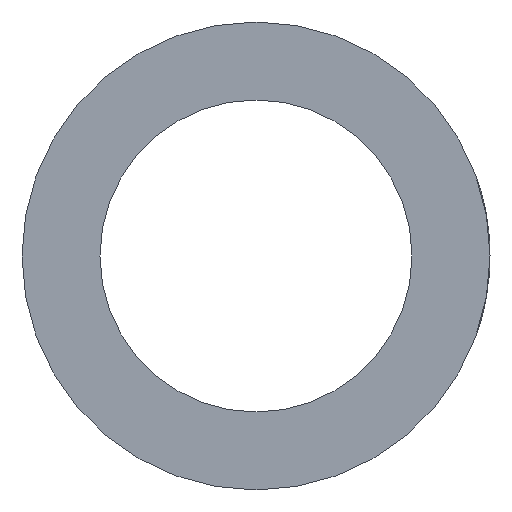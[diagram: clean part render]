
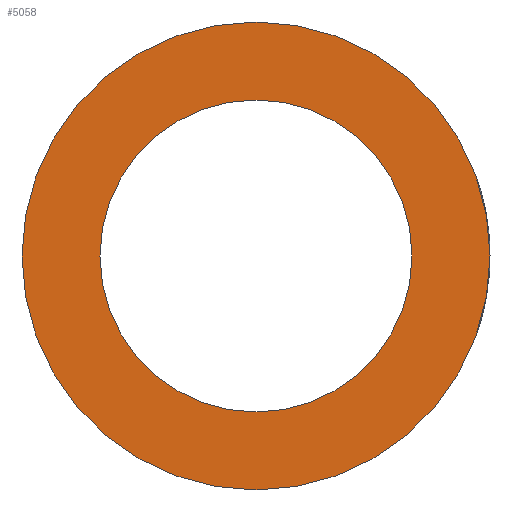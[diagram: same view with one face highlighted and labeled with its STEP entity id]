
A CAD part, left-side view. The second image highlights one B-rep face of the part: STEP entity #5058.
In plain terms, the highlighted planar face has unit normal (-1, 0, 0).
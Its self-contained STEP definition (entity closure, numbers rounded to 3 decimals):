
#1201=ORIENTED_EDGE('',*,*,#2721,.F.);
#1202=ORIENTED_EDGE('',*,*,#2722,.T.);
#2721=EDGE_CURVE('',#3481,#3481,#3995,.T.);
#2722=EDGE_CURVE('',#3482,#3482,#3996,.T.);
#3481=VERTEX_POINT('',#6903);
#3482=VERTEX_POINT('',#6905);
#3995=CIRCLE('',#5383,40.);
#3996=CIRCLE('',#5384,60.);
#4143=EDGE_LOOP('',(#1201));
#4144=EDGE_LOOP('',(#1202));
#4519=FACE_BOUND('',#4143,.T.);
#4520=FACE_BOUND('',#4144,.T.);
#4895=PLANE('',#5382);
#5058=ADVANCED_FACE('',(#4519,#4520),#4895,.F.);
#5382=AXIS2_PLACEMENT_3D('',#6901,#5749,#5750);
#5383=AXIS2_PLACEMENT_3D('',#6902,#5751,#5752);
#5384=AXIS2_PLACEMENT_3D('',#6904,#5753,#5754);
#5749=DIRECTION('',(1.,0.,0.));
#5750=DIRECTION('',(0.,0.,-1.));
#5751=DIRECTION('',(-1.,0.,0.));
#5752=DIRECTION('',(0.,0.,1.));
#5753=DIRECTION('',(-1.,0.,0.));
#5754=DIRECTION('',(0.,0.,1.));
#6901=CARTESIAN_POINT('',(0.,51.,0.));
#6902=CARTESIAN_POINT('',(0.,0.,0.));
#6903=CARTESIAN_POINT('',(0.,0.,40.));
#6904=CARTESIAN_POINT('',(0.,0.,0.));
#6905=CARTESIAN_POINT('',(0.,0.,60.));
